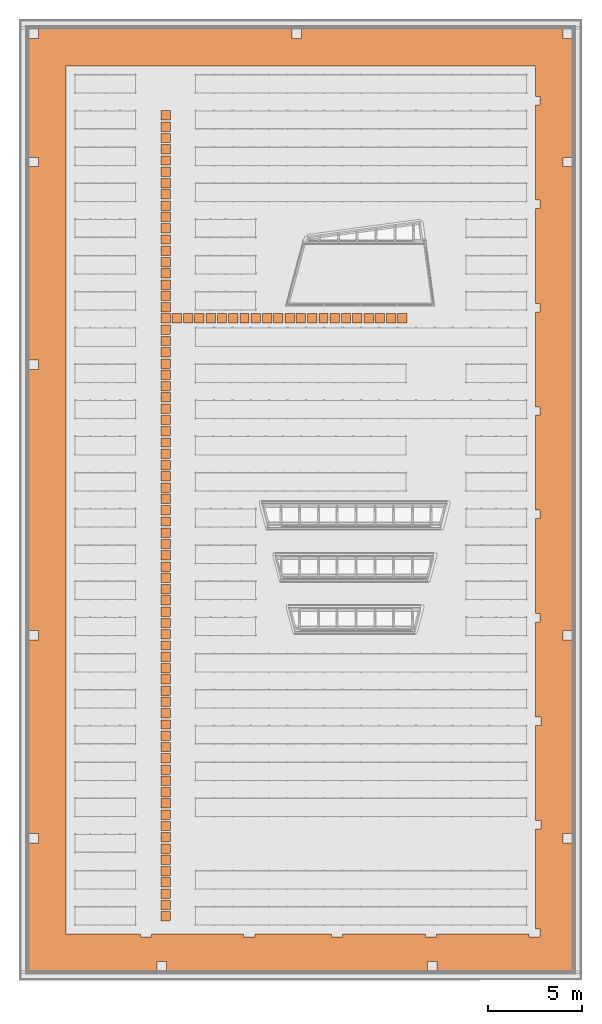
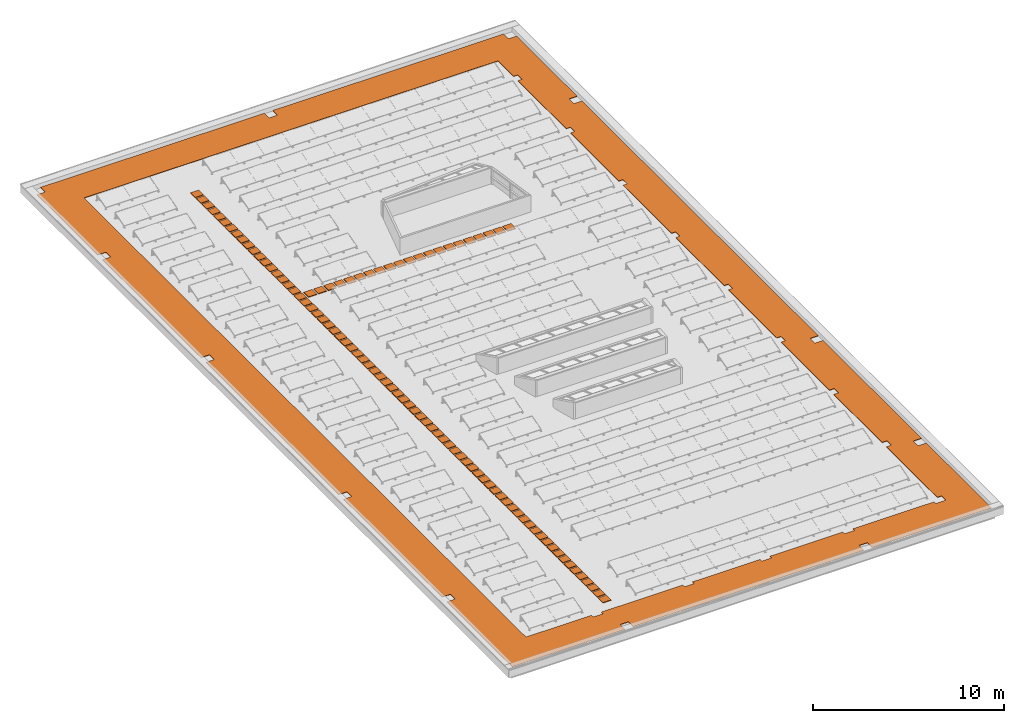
# One storey, part 20 of 20: 94 proxies, 1 opening.
"""IFC2X3 building model written with IfcOpenShell, lengths in millimetres."""

from ifc_helpers import new_model, entity, si_unit, converted_unit, derived_unit, money_unit, direction, frame, origin_with_axes, place, context, subcontext, project, spatial, faceted_brep, material, type_object, element, save


model = new_model("IFC2X3")

# Units and contexts
model_context = context("Model", 3, precision=0.01, world=origin_with_axes(), true_north=direction((0.0, 1.0)))
plan_context = context("Plan", 3, precision=0.01, world=origin_with_axes(), true_north=direction((0.0, 1.0)))
body_context = subcontext(model_context, "Body", "Model", "MODEL_VIEW")
ifc_project = project(units=[si_unit("LENGTHUNIT", "METRE", prefix="MILLI"), si_unit("AREAUNIT", "SQUARE_METRE"), si_unit("VOLUMEUNIT", "CUBIC_METRE"), converted_unit("PLANEANGLEUNIT", "DEGREE", entity("IfcPlaneAngleMeasure", 0.0174532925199), si_unit("PLANEANGLEUNIT", "RADIAN"), dimensions=[0, 0, 0, 0, 0, 0, 0]), si_unit("SOLIDANGLEUNIT", "STERADIAN"), money_unit("EUR"), converted_unit("TIMEUNIT", "Year", entity("IfcTimeMeasure", 31556926.0), si_unit("TIMEUNIT", "SECOND"), dimensions=[0, 0, 1, 0, 0, 0, 0]), si_unit("MASSUNIT", "GRAM", prefix="KILO"), si_unit("THERMODYNAMICTEMPERATUREUNIT", "DEGREE_CELSIUS"), si_unit("LUMINOUSINTENSITYUNIT", "LUMEN"), si_unit("ENERGYUNIT", "JOULE", prefix="MEGA"), derived_unit("THERMALCONDUCTANCEUNIT", [(si_unit("POWERUNIT", "WATT"), 1), (si_unit("LENGTHUNIT", "METRE"), -1), (si_unit("THERMODYNAMICTEMPERATUREUNIT", "KELVIN"), -1)]), derived_unit("SPECIFICHEATCAPACITYUNIT", [(si_unit("ENERGYUNIT", "JOULE"), 1), (si_unit("MASSUNIT", "GRAM", prefix="KILO"), -1), (si_unit("THERMODYNAMICTEMPERATUREUNIT", "KELVIN"), -1)]), derived_unit("MASSDENSITYUNIT", [(si_unit("MASSUNIT", "GRAM", prefix="KILO"), 1), (si_unit("VOLUMEUNIT", "CUBIC_METRE"), -1)])], contexts=[model_context, plan_context])

# Site, building, storey
site_placement = place(None, origin_with_axes())
site = spatial("IfcSite", under=ifc_project, at=site_placement, Name="Site", CompositionType="ELEMENT")
building_placement = place(site_placement, origin_with_axes())
building = spatial("IfcBuilding", under=site, at=building_placement, Name="Naam gebouw", CompositionType="ELEMENT")
storey_placement = place(building_placement, frame((0.0, 0.0, 7920.0), z_axis=(0.0, 0.0, 1.0), x_axis=(1.0, 0.0, 0.0)))
storey = spatial("IfcBuildingStorey", under=building, at=storey_placement, Name="2e verdieping", CompositionType="ELEMENT", Elevation=7920.0)

# Proxies
ifc_material_1 = material(Name="_TenW_27_Betontegel")
building_element_proxy_type_1 = type_object("IfcBuildingElementProxyType", Name="_TenW_27_Betontegel 50", PredefinedType="NOTDEFINED")
for number, where, z_axis, x_axis in (
    (1, (19659.413638, 34607.9479268, 290.0), (0.0, 0.0, 1.0), (1.0, 0.0, 0.0)),
    (2, (20259.4129887, 34607.9479268, 290.0), (0.0, 0.0, 1.0), (1.0, 0.0, 0.0)),
    (3, (18459.4149364, 34607.9479268, 290.0), (0.0, 0.0, 1.0), (1.0, 0.0, 0.0)),
    (4, (19059.4142872, 34607.9479268, 290.0), (0.0, 0.0, 1.0), (1.0, 0.0, 0.0)),
    (5, (17259.4162349, 34607.9479268, 290.0), (0.0, 0.0, 1.0), (1.0, 0.0, 0.0)),
    (6, (17859.4155856, 34607.9479268, 290.0), (0.0, 0.0, 1.0), (1.0, 0.0, 0.0)),
    (7, (16059.4175333, 34607.9479268, 290.0), (0.0, 0.0, 1.0), (1.0, 0.0, 0.0)),
    (8, (16659.4168841, 34607.9479268, 290.0), (0.0, 0.0, 1.0), (1.0, 0.0, 0.0)),
    (9, (14859.4188318, 34607.9479268, 290.0), (0.0, 0.0, 1.0), (1.0, 0.0, 0.0)),
    (10, (15459.4181825, 34607.9479268, 290.0), (0.0, 0.0, 1.0), (1.0, 0.0, 0.0)),
    (11, (13659.4201302, 34607.9479268, 290.0), (0.0, 0.0, 1.0), (1.0, 0.0, 0.0)),
    (12, (14259.419481, 34607.9479268, 290.0), (0.0, 0.0, 1.0), (1.0, 0.0, 0.0)),
    (13, (12459.4214287, 34607.9479268, 290.0), (0.0, 0.0, 1.0), (1.0, 0.0, 0.0)),
    (14, (13059.4207794, 34607.9479268, 290.0), (0.0, 0.0, 1.0), (1.0, 0.0, 0.0)),
    (15, (11259.4227271, 34607.9479268, 290.0), (0.0, 0.0, 1.0), (1.0, 0.0, 0.0)),
    (16, (11859.4220779, 34607.9479268, 290.0), (0.0, 0.0, 1.0), (1.0, 0.0, 0.0)),
    (17, (10059.4240256, 34607.9479268, 290.0), (0.0, 0.0, 1.0), (1.0, 0.0, 0.0)),
    (18, (10659.4233763, 34607.9479268, 290.0), (0.0, 0.0, 1.0), (1.0, 0.0, 0.0)),
    (19, (8859.42532402, 34607.9479268, 290.0), (0.0, 0.0, 1.0), (1.0, 0.0, 0.0)),
    (20, (9459.4246748, 34607.9479268, 290.0), (0.0, 0.0, 1.0), (1.0, 0.0, 0.0)),
    (21, (7659.42662247, 34607.9479268, 290.0), (0.0, 0.0, 1.0), (1.0, 0.0, 0.0)),
    (22, (8259.42597325, 34607.9479268, 290.0), (0.0, 0.0, 1.0), (1.0, 0.0, 0.0)),
):
    element("IfcBuildingElementProxy", number, at=place(storey_placement, frame(where, z_axis=z_axis, x_axis=x_axis)), inside=storey, type_object=building_element_proxy_type_1, material=ifc_material_1, Name="23__Vloer-x", context=body_context, shape_type="Brep", body=[
        faceted_brep([(0.0, 0.0, 0.0), (0.0, 0.0, -50.0), (0.0, 500.0, -50.0), (0.0, 500.0, 0.0), (-499.999350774, 0.0, 0.0), (-499.999350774, 0.0, -50.0), (-499.999350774, 500.805745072, -50.0), (-499.999350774, 500.805745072, 0.0)], [[[0, 1, 2, 3]], [[4, 5, 1, 0]], [[2, 1, 5, 6]], [[3, 2, 6, 7]], [[4, 0, 3, 7]], [[7, 6, 5, 4]]]),
    ])
for number, where, z_axis, x_axis in (
    (23, (7158.6208774, 22007.9622098, 290.0), (0.0, 0.0, 1.0), (1.0, 0.0, 0.0)),
    (24, (7158.6208774, 21407.962859, 290.0), (0.0, 0.0, 1.0), (1.0, 0.0, 0.0)),
    (25, (7158.6208774, 23207.9609113, 290.0), (0.0, 0.0, 1.0), (1.0, 0.0, 0.0)),
    (26, (7158.6208774, 22607.9615606, 290.0), (0.0, 0.0, 1.0), (1.0, 0.0, 0.0)),
    (27, (7158.6208774, 24407.9596129, 290.0), (0.0, 0.0, 1.0), (1.0, 0.0, 0.0)),
    (28, (7158.6208774, 23807.9602621, 290.0), (0.0, 0.0, 1.0), (1.0, 0.0, 0.0)),
    (29, (7158.6208774, 25607.9583144, 290.0), (0.0, 0.0, 1.0), (1.0, 0.0, 0.0)),
    (30, (7158.6208774, 25007.9589637, 290.0), (0.0, 0.0, 1.0), (1.0, 0.0, 0.0)),
    (31, (7158.6208774, 26807.957016, 290.0), (0.0, 0.0, 1.0), (1.0, 0.0, 0.0)),
    (32, (7158.6208774, 26207.9576652, 290.0), (0.0, 0.0, 1.0), (1.0, 0.0, 0.0)),
    (33, (7158.6208774, 28007.9557175, 290.0), (0.0, 0.0, 1.0), (1.0, 0.0, 0.0)),
    (34, (7158.6208774, 27407.9563668, 290.0), (0.0, 0.0, 1.0), (1.0, 0.0, 0.0)),
    (35, (7158.6208774, 29207.9544191, 290.0), (0.0, 0.0, 1.0), (1.0, 0.0, 0.0)),
    (36, (7158.6208774, 28607.9550683, 290.0), (0.0, 0.0, 1.0), (1.0, 0.0, 0.0)),
    (37, (7158.6208774, 30407.9531206, 290.0), (0.0, 0.0, 1.0), (1.0, 0.0, 0.0)),
    (38, (7158.6208774, 29807.9537698, 290.0), (0.0, 0.0, 1.0), (1.0, 0.0, 0.0)),
    (39, (7158.6208774, 31607.9518222, 290.0), (0.0, 0.0, 1.0), (1.0, 0.0, 0.0)),
    (40, (7158.6208774, 31007.9524714, 290.0), (0.0, 0.0, 1.0), (1.0, 0.0, 0.0)),
    (41, (7158.6208774, 32807.9505237, 290.0), (0.0, 0.0, 1.0), (1.0, 0.0, 0.0)),
    (42, (7158.6208774, 32207.9511729, 290.0), (0.0, 0.0, 1.0), (1.0, 0.0, 0.0)),
    (43, (7158.6208774, 34007.9492253, 290.0), (0.0, 0.0, 1.0), (1.0, 0.0, 0.0)),
    (44, (7158.6208774, 33407.9498745, 290.0), (0.0, 0.0, 1.0), (1.0, 0.0, 0.0)),
    (45, (7158.6208774, 8807.97649274, 290.0), (0.0, 0.0, 1.0), (1.0, 0.0, 0.0)),
    (46, (7158.6208774, 8207.97714197, 290.0), (0.0, 0.0, 1.0), (1.0, 0.0, 0.0)),
    (47, (7158.6208774, 10007.9751943, 290.0), (0.0, 0.0, 1.0), (1.0, 0.0, 0.0)),
    (48, (7158.6208774, 9407.97584352, 290.0), (0.0, 0.0, 1.0), (1.0, 0.0, 0.0)),
    (49, (7158.6208774, 11207.9738958, 290.0), (0.0, 0.0, 1.0), (1.0, 0.0, 0.0)),
    (50, (7158.6208774, 10607.9745451, 290.0), (0.0, 0.0, 1.0), (1.0, 0.0, 0.0)),
    (51, (7158.6208774, 12407.9725974, 290.0), (0.0, 0.0, 1.0), (1.0, 0.0, 0.0)),
    (52, (7158.6208774, 11807.9732466, 290.0), (0.0, 0.0, 1.0), (1.0, 0.0, 0.0)),
    (53, (7158.6208774, 13607.9712989, 290.0), (0.0, 0.0, 1.0), (1.0, 0.0, 0.0)),
    (54, (7158.6208774, 13007.9719482, 290.0), (0.0, 0.0, 1.0), (1.0, 0.0, 0.0)),
    (55, (7158.6208774, 14807.9700005, 290.0), (0.0, 0.0, 1.0), (1.0, 0.0, 0.0)),
    (56, (7158.6208774, 14207.9706497, 290.0), (0.0, 0.0, 1.0), (1.0, 0.0, 0.0)),
    (57, (7158.6208774, 16007.968702, 290.0), (0.0, 0.0, 1.0), (1.0, 0.0, 0.0)),
    (58, (7158.6208774, 15407.9693513, 290.0), (0.0, 0.0, 1.0), (1.0, 0.0, 0.0)),
    (59, (7158.6208774, 17207.9674036, 290.0), (0.0, 0.0, 1.0), (1.0, 0.0, 0.0)),
    (60, (7158.6208774, 16607.9680528, 290.0), (0.0, 0.0, 1.0), (1.0, 0.0, 0.0)),
    (61, (7158.6208774, 18407.9661051, 290.0), (0.0, 0.0, 1.0), (1.0, 0.0, 0.0)),
    (62, (7158.6208774, 17807.9667544, 290.0), (0.0, 0.0, 1.0), (1.0, 0.0, 0.0)),
    (63, (7158.6208774, 19607.9648067, 290.0), (0.0, 0.0, 1.0), (1.0, 0.0, 0.0)),
    (64, (7158.6208774, 19007.9654559, 290.0), (0.0, 0.0, 1.0), (1.0, 0.0, 0.0)),
    (65, (7158.6208774, 20807.9635082, 290.0), (0.0, 0.0, 1.0), (1.0, 0.0, 0.0)),
    (66, (7158.6208774, 20207.9641575, 290.0), (0.0, 0.0, 1.0), (1.0, 0.0, 0.0)),
    (67, (7159.42662247, 35807.9466284, 290.0), (0.0, 0.0, 1.0), (1.0, 0.0, 0.0)),
    (68, (7159.42662247, 35207.9472776, 290.0), (0.0, 0.0, 1.0), (1.0, 0.0, 0.0)),
    (69, (7159.42662247, 37007.9453299, 290.0), (0.0, 0.0, 1.0), (1.0, 0.0, 0.0)),
    (70, (7159.42662247, 36407.9459791, 290.0), (0.0, 0.0, 1.0), (1.0, 0.0, 0.0)),
    (71, (7159.42662247, 38207.9440315, 290.0), (0.0, 0.0, 1.0), (1.0, 0.0, 0.0)),
    (72, (7159.42662247, 37607.9446807, 290.0), (0.0, 0.0, 1.0), (1.0, 0.0, 0.0)),
    (73, (7159.42662247, 39407.942733, 290.0), (0.0, 0.0, 1.0), (1.0, 0.0, 0.0)),
    (74, (7159.42662247, 38807.9433822, 290.0), (0.0, 0.0, 1.0), (1.0, 0.0, 0.0)),
    (75, (7159.42662247, 40607.9414346, 290.0), (0.0, 0.0, 1.0), (1.0, 0.0, 0.0)),
    (76, (7159.42662247, 40007.9420838, 290.0), (0.0, 0.0, 1.0), (1.0, 0.0, 0.0)),
    (77, (7159.42662247, 41807.9401361, 290.0), (0.0, 0.0, 1.0), (1.0, 0.0, 0.0)),
    (78, (7159.42662247, 41207.9407853, 290.0), (0.0, 0.0, 1.0), (1.0, 0.0, 0.0)),
    (79, (7159.42662247, 43007.9388377, 290.0), (0.0, 0.0, 1.0), (1.0, 0.0, 0.0)),
    (80, (7159.42662247, 42407.9394869, 290.0), (0.0, 0.0, 1.0), (1.0, 0.0, 0.0)),
    (81, (7159.42662247, 44207.9375392, 290.0), (0.0, 0.0, 1.0), (1.0, 0.0, 0.0)),
    (82, (7159.42662247, 43607.9381884, 290.0), (0.0, 0.0, 1.0), (1.0, 0.0, 0.0)),
    (83, (7159.42662247, 45407.9362408, 290.0), (0.0, 0.0, 1.0), (1.0, 0.0, 0.0)),
    (84, (7159.42662247, 44807.93689, 290.0), (0.0, 0.0, 1.0), (1.0, 0.0, 0.0)),
    (85, (7158.6208774, 6407.97908965, 290.0), (0.0, 0.0, 1.0), (1.0, 0.0, 0.0)),
    (86, (7158.6208774, 5807.97973887, 290.0), (0.0, 0.0, 1.0), (1.0, 0.0, 0.0)),
    (87, (7158.6208774, 7607.97779119, 290.0), (0.0, 0.0, 1.0), (1.0, 0.0, 0.0)),
    (88, (7158.6208774, 7007.97844042, 290.0), (0.0, 0.0, 1.0), (1.0, 0.0, 0.0)),
    (89, (7158.6208774, 4007.98168655, 290.0), (0.0, 0.0, 1.0), (1.0, 0.0, 0.0)),
    (90, (7158.6208774, 3407.98233577, 290.0), (0.0, 0.0, 1.0), (1.0, 0.0, 0.0)),
    (91, (7158.6208774, 5207.9803881, 290.0), (0.0, 0.0, 1.0), (1.0, 0.0, 0.0)),
    (92, (7158.6208774, 4607.98103732, 290.0), (0.0, 0.0, 1.0), (1.0, 0.0, 0.0)),
    (93, (7158.6208774, 2807.982985, 290.0), (0.0, 0.0, 1.0), (1.0, 0.0, 0.0)),
):
    element("IfcBuildingElementProxy", number, at=place(storey_placement, frame(where, z_axis=z_axis, x_axis=x_axis)), inside=storey, type_object=building_element_proxy_type_1, material=ifc_material_1, Name="23__Vloer-x", context=body_context, shape_type="Brep", body=[
        faceted_brep([(0.0, 0.0, 0.0), (0.0, 0.0, -50.0), (500.0, 0.0, -50.0), (500.0, 0.0, 0.0), (0.0, 499.999350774, 0.0), (0.0, 499.999350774, -50.0), (500.805745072, 499.999350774, -50.0), (500.805745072, 499.999350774, 0.0)], [[[0, 1, 2, 3]], [[4, 5, 1, 0]], [[2, 1, 5, 6]], [[3, 2, 6, 7]], [[4, 0, 3, 7]], [[7, 6, 5, 4]]]),
    ])

# Proxy, opening
ifc_material_2 = material(Name="Grond")
building_element_proxy_type_2 = type_object("IfcBuildingElementProxyType", Name="Grond 30", PredefinedType="NOTDEFINED")
proxy_placement = place(storey_placement, frame((139.429230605, 17747.4617798, 250.0), z_axis=(0.0, 0.0, 1.0), x_axis=(1.0, 0.0, 0.0)))
proxy = element("IfcBuildingElementProxy", 94, at=proxy_placement, inside=storey, type_object=building_element_proxy_type_2, material=ifc_material_2, Name="23__Vloer-x", context=body_context, shape_type="Brep", body=[
    faceted_brep([(0.0, 0.0, 30.0), (0.0, 0.0, 0.0), (0.0, -10286.9267862, 0.0), (0.0, -10286.9267862, 30.0), (500.0, 0.0, 30.0), (500.0, 0.0, 0.0), (500.0, 500.0, 0.0), (0.0, 500.0, 0.0), (4.61630733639e-10, 14395.9983591, 0.0), (500.0, 14395.9983591, 0.0), (500.000000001, 14895.9983591, 0.0), (5.25579579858e-10, 14895.9983591, 0.0), (0.0, 25184.4881728, 0.0), (500.0, 25184.4881728, 0.0), (500.0, 25684.4881728, 0.0), (0.0, 25684.4881728, 0.0), (0.0, 32013.1089896, 0.0), (500.0, 32013.1089896, 0.0), (500.0, 32513.1089896, 0.0), (14001.7420512, 32513.1089896, 0.0), (14001.7420512, 32013.1089896, 0.0), (14501.7420512, 32013.1089896, 0.0), (14501.7420512, 32513.1089896, 0.0), (28421.1415388, 32513.1089896, 0.0), (28421.1415388, 32013.1089896, 0.0), (28921.1415388, 32013.1089896, 0.0), (28921.1415388, 25684.4881728, 0.0), (28421.1415388, 25684.4881728, 0.0), (28421.1415388, 25184.4881728, 0.0), (28921.1415388, 25184.4881728, 0.0), (28921.1415388, 500.0, 0.0), (28421.1415388, 500.0, 0.0), (28421.1415388, 0.0, 0.0), (28921.1415388, 0.0, 0.0), (28921.1415388, -10286.9267862, 0.0), (28421.1415388, -10286.9267862, 0.0), (28421.1415388, -10786.9267862, 0.0), (28921.1415388, -10786.9267862, 0.0), (28921.1415388, -17608.0325491, 0.0), (21709.5399205, -17608.0325491, 0.0), (21709.5399205, -17108.0325491, 0.0), (21209.5399205, -17108.0325491, 0.0), (21209.5399205, -17608.0325491, 0.0), (7312.89089203, -17608.0325491, 0.0), (7312.89089203, -17108.0325491, 0.0), (6812.89089203, -17108.0325491, 0.0), (6812.89089203, -17608.0325491, 0.0), (0.0, -17608.0325491, 0.0), (0.0, -10786.9267862, 0.0), (500.0, -10786.9267862, 0.0), (500.0, -10286.9267862, 0.0), (26944.6170879, 30536.5845387, 0.0), (1976.52445093, 30536.5845387, 0.0), (1976.52445093, -15631.5080982, 0.0), (5926.52445093, -15631.5080982, 0.0), (5926.52445093, -15806.5080982, 0.0), (6526.52445093, -15806.5080982, 0.0), (6526.52445093, -15631.5080982, 0.0), (11426.5244509, -15631.5080982, 0.0), (11426.5244509, -15806.5080982, 0.0), (12026.5244509, -15806.5080982, 0.0), (12026.5244509, -15631.5080982, 0.0), (16094.6170879, -15631.5080982, 0.0), (16094.6170879, -15806.5080982, 0.0), (16694.6170879, -15806.5080982, 0.0), (16694.6170879, -15631.5080982, 0.0), (21094.6170879, -15631.5080982, 0.0), (21094.6170879, -15806.5080982, 0.0), (21694.6170879, -15806.5080982, 0.0), (21694.6170879, -15631.5080982, 0.0), (26594.6170879, -15631.5080982, 0.0), (26594.6170879, -15806.5080982, 0.0), (27194.6170879, -15806.5080982, 0.0), (27194.6170879, -15356.5080982, 0.0), (26944.6170879, -15356.5080982, 0.0), (26944.6170879, -10038.2455282, 0.0), (27237.8517392, -10038.2455282, 0.0), (27237.8517392, -9588.2455282, 0.0), (26944.6170879, -9588.2455282, 0.0), (26944.6170879, -4538.2455282, 0.0), (27237.8517392, -4538.2455282, 0.0), (27237.8517392, -4088.2455282, 0.0), (26944.6170879, -4088.2455282, 0.0), (26944.6170879, 961.58453871, 0.0), (27194.6170879, 961.58453871, 0.0), (27194.6170879, 1411.58453871, 0.0), (26944.6170879, 1411.58453871, 0.0), (26944.6170879, 6461.58453871, 0.0), (27194.6170879, 6461.58453871, 0.0), (27194.6170879, 6911.58453871, 0.0), (26944.6170879, 6911.58453871, 0.0), (26944.6170879, 11961.5845387, 0.0), (27194.6170879, 11961.5845387, 0.0), (27194.6170879, 12411.5845387, 0.0), (26944.6170879, 12411.5845387, 0.0), (26944.6170879, 17461.5845387, 0.0), (27194.6170879, 17461.5845387, 0.0), (27194.6170879, 17911.5845387, 0.0), (26944.6170879, 17911.5845387, 0.0), (26944.6170879, 22961.5845387, 0.0), (27194.6170879, 22961.5845387, 0.0), (27194.6170879, 23411.5845387, 0.0), (26944.6170879, 23411.5845387, 0.0), (26944.6170879, 28461.5845387, 0.0), (27194.6170879, 28461.5845387, 0.0), (27194.6170879, 28911.5845387, 0.0), (26944.6170879, 28911.5845387, 0.0), (500.0, -10286.9267862, 30.0), (500.0, -10786.9267862, 30.0), (0.0, -10786.9267862, 30.0), (0.0, -17608.0325491, 30.0), (6812.89089203, -17608.0325491, 30.0), (6812.89089203, -17108.0325491, 30.0), (7312.89089203, -17108.0325491, 30.0), (7312.89089203, -17608.0325491, 30.0), (21209.5399205, -17608.0325491, 30.0), (21209.5399205, -17108.0325491, 30.0), (21709.5399205, -17108.0325491, 30.0), (21709.5399205, -17608.0325491, 30.0), (28921.1415388, -17608.0325491, 30.0), (28921.1415388, -10786.9267862, 30.0), (28421.1415388, -10786.9267862, 30.0), (28421.1415388, -10286.9267862, 30.0), (28921.1415388, -10286.9267862, 30.0), (28921.1415388, 0.0, 30.0), (28421.1415388, 0.0, 30.0), (28421.1415388, 500.0, 30.0), (28921.1415388, 500.0, 30.0), (28921.1415388, 25184.4881728, 30.0), (28421.1415388, 25184.4881728, 30.0), (28421.1415388, 25684.4881728, 30.0), (28921.1415388, 25684.4881728, 30.0), (28921.1415388, 32013.1089896, 30.0), (28421.1415388, 32013.1089896, 30.0), (28421.1415388, 32513.1089896, 30.0), (14501.7420512, 32513.1089896, 30.0), (14501.7420512, 32013.1089896, 30.0), (14001.7420512, 32013.1089896, 30.0), (14001.7420512, 32513.1089896, 30.0), (500.0, 32513.1089896, 30.0), (500.0, 32013.1089896, 30.0), (0.0, 32013.1089896, 30.0), (0.0, 25684.4881728, 30.0), (500.0, 25684.4881728, 30.0), (500.0, 25184.4881728, 30.0), (0.0, 25184.4881728, 30.0), (5.25579579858e-10, 14895.9983591, 30.0), (500.000000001, 14895.9983591, 30.0), (500.0, 14395.9983591, 30.0), (4.61630733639e-10, 14395.9983591, 30.0), (0.0, 500.0, 30.0), (500.0, 500.0, 30.0), (1976.52445093, -15631.5080982, 30.0), (1976.52445093, 30536.5845387, 30.0), (26944.6170879, 30536.5845387, 30.0), (26944.6170879, 28911.5845387, 30.0), (27194.6170879, 28911.5845387, 30.0), (27194.6170879, 28461.5845387, 30.0), (26944.6170879, 28461.5845387, 30.0), (26944.6170879, 23411.5845387, 30.0), (27194.6170879, 23411.5845387, 30.0), (27194.6170879, 22961.5845387, 30.0), (26944.6170879, 22961.5845387, 30.0), (26944.6170879, 17911.5845387, 30.0), (27194.6170879, 17911.5845387, 30.0), (27194.6170879, 17461.5845387, 30.0), (26944.6170879, 17461.5845387, 30.0), (26944.6170879, 12411.5845387, 30.0), (27194.6170879, 12411.5845387, 30.0), (27194.6170879, 11961.5845387, 30.0), (26944.6170879, 11961.5845387, 30.0), (26944.6170879, 6911.58453871, 30.0), (27194.6170879, 6911.58453871, 30.0), (27194.6170879, 6461.58453871, 30.0), (26944.6170879, 6461.58453871, 30.0), (26944.6170879, 1411.58453871, 30.0), (27194.6170879, 1411.58453871, 30.0), (27194.6170879, 961.58453871, 30.0), (26944.6170879, 961.58453871, 30.0), (26944.6170879, -4088.2455282, 30.0), (27237.8517392, -4088.2455282, 30.0), (27237.8517392, -4538.2455282, 30.0), (26944.6170879, -4538.2455282, 30.0), (26944.6170879, -9588.2455282, 30.0), (27237.8517392, -9588.2455282, 30.0), (27237.8517392, -10038.2455282, 30.0), (26944.6170879, -10038.2455282, 30.0), (26944.6170879, -15356.5080982, 30.0), (27194.6170879, -15356.5080982, 30.0), (27194.6170879, -15806.5080982, 30.0), (26594.6170879, -15806.5080982, 30.0), (26594.6170879, -15631.5080982, 30.0), (21694.6170879, -15631.5080982, 30.0), (21694.6170879, -15806.5080982, 30.0), (21094.6170879, -15806.5080982, 30.0), (21094.6170879, -15631.5080982, 30.0), (16694.6170879, -15631.5080982, 30.0), (16694.6170879, -15806.5080982, 30.0), (16094.6170879, -15806.5080982, 30.0), (16094.6170879, -15631.5080982, 30.0), (12026.5244509, -15631.5080982, 30.0), (12026.5244509, -15806.5080982, 30.0), (11426.5244509, -15806.5080982, 30.0), (11426.5244509, -15631.5080982, 30.0), (6526.52445093, -15631.5080982, 30.0), (6526.52445093, -15806.5080982, 30.0), (5926.52445093, -15806.5080982, 30.0), (5926.52445093, -15631.5080982, 30.0)], [[[0, 1, 2, 3]], [[4, 5, 1, 0]], [[2, 1, 5, 6, 7, 8, 9, 10, 11, 12, 13, 14, 15, 16, 17, 18, 19, 20, 21, 22, 23, 24, 25, 26, 27, 28, 29, 30, 31, 32, 33, 34, 35, 36, 37, 38, 39, 40, 41, 42, 43, 44, 45, 46, 47, 48, 49, 50], [51, 52, 53, 54, 55, 56, 57, 58, 59, 60, 61, 62, 63, 64, 65, 66, 67, 68, 69, 70, 71, 72, 73, 74, 75, 76, 77, 78, 79, 80, 81, 82, 83, 84, 85, 86, 87, 88, 89, 90, 91, 92, 93, 94, 95, 96, 97, 98, 99, 100, 101, 102, 103, 104, 105, 106]], [[3, 2, 50, 107]], [[4, 0, 3, 107, 108, 109, 110, 111, 112, 113, 114, 115, 116, 117, 118, 119, 120, 121, 122, 123, 124, 125, 126, 127, 128, 129, 130, 131, 132, 133, 134, 135, 136, 137, 138, 139, 140, 141, 142, 143, 144, 145, 146, 147, 148, 149, 150, 151], [152, 153, 154, 155, 156, 157, 158, 159, 160, 161, 162, 163, 164, 165, 166, 167, 168, 169, 170, 171, 172, 173, 174, 175, 176, 177, 178, 179, 180, 181, 182, 183, 184, 185, 186, 187, 188, 189, 190, 191, 192, 193, 194, 195, 196, 197, 198, 199, 200, 201, 202, 203, 204, 205, 206, 207]], [[151, 6, 5, 4]], [[150, 7, 6, 151]], [[149, 8, 7, 150]], [[148, 9, 8, 149]], [[147, 10, 9, 148]], [[146, 11, 10, 147]], [[145, 12, 11, 146]], [[144, 13, 12, 145]], [[143, 14, 13, 144]], [[142, 15, 14, 143]], [[141, 16, 15, 142]], [[140, 17, 16, 141]], [[139, 18, 17, 140]], [[138, 19, 18, 139]], [[137, 20, 19, 138]], [[136, 21, 20, 137]], [[135, 22, 21, 136]], [[134, 23, 22, 135]], [[133, 24, 23, 134]], [[132, 25, 24, 133]], [[131, 26, 25, 132]], [[130, 27, 26, 131]], [[129, 28, 27, 130]], [[128, 29, 28, 129]], [[127, 30, 29, 128]], [[126, 31, 30, 127]], [[125, 32, 31, 126]], [[124, 33, 32, 125]], [[123, 34, 33, 124]], [[122, 35, 34, 123]], [[121, 36, 35, 122]], [[120, 37, 36, 121]], [[119, 38, 37, 120]], [[118, 39, 38, 119]], [[117, 40, 39, 118]], [[116, 41, 40, 117]], [[115, 42, 41, 116]], [[114, 43, 42, 115]], [[113, 44, 43, 114]], [[112, 45, 44, 113]], [[111, 46, 45, 112]], [[110, 47, 46, 111]], [[109, 48, 47, 110]], [[108, 49, 48, 109]], [[107, 50, 49, 108]], [[153, 52, 51, 154]], [[152, 53, 52, 153]], [[207, 54, 53, 152]], [[206, 55, 54, 207]], [[205, 56, 55, 206]], [[204, 57, 56, 205]], [[203, 58, 57, 204]], [[202, 59, 58, 203]], [[201, 60, 59, 202]], [[200, 61, 60, 201]], [[199, 62, 61, 200]], [[198, 63, 62, 199]], [[197, 64, 63, 198]], [[196, 65, 64, 197]], [[195, 66, 65, 196]], [[194, 67, 66, 195]], [[193, 68, 67, 194]], [[192, 69, 68, 193]], [[191, 70, 69, 192]], [[190, 71, 70, 191]], [[189, 72, 71, 190]], [[188, 73, 72, 189]], [[187, 74, 73, 188]], [[186, 75, 74, 187]], [[185, 76, 75, 186]], [[184, 77, 76, 185]], [[183, 78, 77, 184]], [[182, 79, 78, 183]], [[181, 80, 79, 182]], [[180, 81, 80, 181]], [[179, 82, 81, 180]], [[178, 83, 82, 179]], [[177, 84, 83, 178]], [[176, 85, 84, 177]], [[175, 86, 85, 176]], [[174, 87, 86, 175]], [[173, 88, 87, 174]], [[172, 89, 88, 173]], [[171, 90, 89, 172]], [[170, 91, 90, 171]], [[169, 92, 91, 170]], [[168, 93, 92, 169]], [[167, 94, 93, 168]], [[166, 95, 94, 167]], [[165, 96, 95, 166]], [[164, 97, 96, 165]], [[163, 98, 97, 164]], [[162, 99, 98, 163]], [[161, 100, 99, 162]], [[160, 101, 100, 161]], [[159, 102, 101, 160]], [[158, 103, 102, 159]], [[157, 104, 103, 158]], [[156, 105, 104, 157]], [[155, 106, 105, 156]], [[154, 51, 106, 155]]]),
])
opening_placement = place(proxy_placement, origin_with_axes())
element("IfcOpeningElement", 95, at=opening_placement, cuts=proxy, Name="Slab Opening", context=body_context, shape_type="Brep", body=[
    faceted_brep([(26944.6170879, 961.58453871, 0.0), (26944.6170879, -4088.2455282, 0.0), (27237.8517392, -4088.2455282, 0.0), (27237.8517392, -4538.2455282, 0.0), (26944.6170879, -4538.2455282, 0.0), (26944.6170879, -9588.2455282, 0.0), (27237.8517392, -9588.2455282, 0.0), (27237.8517392, -10038.2455282, 0.0), (26944.6170879, -10038.2455282, 0.0), (26944.6170879, -15356.5080982, 0.0), (27194.6170879, -15356.5080982, 0.0), (27194.6170879, -15806.5080982, 0.0), (26594.6170879, -15806.5080982, 0.0), (26594.6170879, -15631.5080982, 0.0), (21694.6170879, -15631.5080982, 0.0), (21694.6170879, -15806.5080982, 0.0), (21094.6170879, -15806.5080982, 0.0), (21094.6170879, -15631.5080982, 0.0), (16694.6170879, -15631.5080982, 0.0), (16694.6170879, -15806.5080982, 0.0), (16094.6170879, -15806.5080982, 0.0), (16094.6170879, -15631.5080982, 0.0), (12026.5244509, -15631.5080982, 0.0), (12026.5244509, -15806.5080982, 0.0), (11426.5244509, -15806.5080982, 0.0), (11426.5244509, -15631.5080982, 0.0), (6526.52445093, -15631.5080982, 0.0), (6526.52445093, -15806.5080982, 0.0), (5926.52445093, -15806.5080982, 0.0), (5926.52445093, -15631.5080982, 0.0), (1976.52445093, -15631.5080982, 0.0), (1976.52445093, 30536.5845387, 0.0), (26944.6170879, 30536.5845387, 0.0), (26944.6170879, 28911.5845387, 0.0), (27194.6170879, 28911.5845387, 0.0), (27194.6170879, 28461.5845387, 0.0), (26944.6170879, 28461.5845387, 0.0), (26944.6170879, 23411.5845387, 0.0), (27194.6170879, 23411.5845387, 0.0), (27194.6170879, 22961.5845387, 0.0), (26944.6170879, 22961.5845387, 0.0), (26944.6170879, 17911.5845387, 0.0), (27194.6170879, 17911.5845387, 0.0), (27194.6170879, 17461.5845387, 0.0), (26944.6170879, 17461.5845387, 0.0), (26944.6170879, 12411.5845387, 0.0), (27194.6170879, 12411.5845387, 0.0), (27194.6170879, 11961.5845387, 0.0), (26944.6170879, 11961.5845387, 0.0), (26944.6170879, 6911.58453871, 0.0), (27194.6170879, 6911.58453871, 0.0), (27194.6170879, 6461.58453871, 0.0), (26944.6170879, 6461.58453871, 0.0), (26944.6170879, 1411.58453871, 0.0), (27194.6170879, 1411.58453871, 0.0), (27194.6170879, 961.58453871, 0.0), (26944.6170879, 961.58453871, 30.0), (26944.6170879, -4088.2455282, 30.0), (27237.8517392, -4088.2455282, 30.0), (27237.8517392, -4538.2455282, 30.0), (26944.6170879, -4538.2455282, 30.0), (26944.6170879, -9588.2455282, 30.0), (27237.8517392, -9588.2455282, 30.0), (27237.8517392, -10038.2455282, 30.0), (26944.6170879, -10038.2455282, 30.0), (26944.6170879, -15356.5080982, 30.0), (27194.6170879, -15356.5080982, 30.0), (27194.6170879, -15806.5080982, 30.0), (26594.6170879, -15806.5080982, 30.0), (26594.6170879, -15631.5080982, 30.0), (21694.6170879, -15631.5080982, 30.0), (21694.6170879, -15806.5080982, 30.0), (21094.6170879, -15806.5080982, 30.0), (21094.6170879, -15631.5080982, 30.0), (16694.6170879, -15631.5080982, 30.0), (16694.6170879, -15806.5080982, 30.0), (16094.6170879, -15806.5080982, 30.0), (16094.6170879, -15631.5080982, 30.0), (12026.5244509, -15631.5080982, 30.0), (12026.5244509, -15806.5080982, 30.0), (11426.5244509, -15806.5080982, 30.0), (11426.5244509, -15631.5080982, 30.0), (6526.52445093, -15631.5080982, 30.0), (6526.52445093, -15806.5080982, 30.0), (5926.52445093, -15806.5080982, 30.0), (5926.52445093, -15631.5080982, 30.0), (1976.52445093, -15631.5080982, 30.0), (1976.52445093, 30536.5845387, 30.0), (26944.6170879, 30536.5845387, 30.0), (26944.6170879, 28911.5845387, 30.0), (27194.6170879, 28911.5845387, 30.0), (27194.6170879, 28461.5845387, 30.0), (26944.6170879, 28461.5845387, 30.0), (26944.6170879, 23411.5845387, 30.0), (27194.6170879, 23411.5845387, 30.0), (27194.6170879, 22961.5845387, 30.0), (26944.6170879, 22961.5845387, 30.0), (26944.6170879, 17911.5845387, 30.0), (27194.6170879, 17911.5845387, 30.0), (27194.6170879, 17461.5845387, 30.0), (26944.6170879, 17461.5845387, 30.0), (26944.6170879, 12411.5845387, 30.0), (27194.6170879, 12411.5845387, 30.0), (27194.6170879, 11961.5845387, 30.0), (26944.6170879, 11961.5845387, 30.0), (26944.6170879, 6911.58453871, 30.0), (27194.6170879, 6911.58453871, 30.0), (27194.6170879, 6461.58453871, 30.0), (26944.6170879, 6461.58453871, 30.0), (26944.6170879, 1411.58453871, 30.0), (27194.6170879, 1411.58453871, 30.0), (27194.6170879, 961.58453871, 30.0)], [[[0, 1, 2, 3, 4, 5, 6, 7, 8, 9, 10, 11, 12, 13, 14, 15, 16, 17, 18, 19, 20, 21, 22, 23, 24, 25, 26, 27, 28, 29, 30, 31, 32, 33, 34, 35, 36, 37, 38, 39, 40, 41, 42, 43, 44, 45, 46, 47, 48, 49, 50, 51, 52, 53, 54, 55]], [[56, 57, 1, 0]], [[57, 58, 2, 1]], [[58, 59, 3, 2]], [[59, 60, 4, 3]], [[60, 61, 5, 4]], [[61, 62, 6, 5]], [[62, 63, 7, 6]], [[63, 64, 8, 7]], [[64, 65, 9, 8]], [[65, 66, 10, 9]], [[66, 67, 11, 10]], [[67, 68, 12, 11]], [[68, 69, 13, 12]], [[69, 70, 14, 13]], [[70, 71, 15, 14]], [[71, 72, 16, 15]], [[72, 73, 17, 16]], [[73, 74, 18, 17]], [[74, 75, 19, 18]], [[75, 76, 20, 19]], [[76, 77, 21, 20]], [[77, 78, 22, 21]], [[78, 79, 23, 22]], [[79, 80, 24, 23]], [[80, 81, 25, 24]], [[81, 82, 26, 25]], [[82, 83, 27, 26]], [[83, 84, 28, 27]], [[84, 85, 29, 28]], [[85, 86, 30, 29]], [[86, 87, 31, 30]], [[87, 88, 32, 31]], [[88, 89, 33, 32]], [[89, 90, 34, 33]], [[90, 91, 35, 34]], [[91, 92, 36, 35]], [[92, 93, 37, 36]], [[93, 94, 38, 37]], [[94, 95, 39, 38]], [[95, 96, 40, 39]], [[96, 97, 41, 40]], [[97, 98, 42, 41]], [[98, 99, 43, 42]], [[99, 100, 44, 43]], [[100, 101, 45, 44]], [[101, 102, 46, 45]], [[102, 103, 47, 46]], [[103, 104, 48, 47]], [[104, 105, 49, 48]], [[105, 106, 50, 49]], [[106, 107, 51, 50]], [[107, 108, 52, 51]], [[108, 109, 53, 52]], [[109, 110, 54, 53]], [[110, 111, 55, 54]], [[111, 56, 0, 55]], [[60, 59, 58, 57, 56, 111, 110, 109, 108, 107, 106, 105, 104, 103, 102, 101, 100, 99, 98, 97, 96, 95, 94, 93, 92, 91, 90, 89, 88, 87, 86, 85, 84, 83, 82, 81, 80, 79, 78, 77, 76, 75, 74, 73, 72, 71, 70, 69, 68, 67, 66, 65, 64, 63, 62, 61]]]),
])

save(model, "model.ifc")
